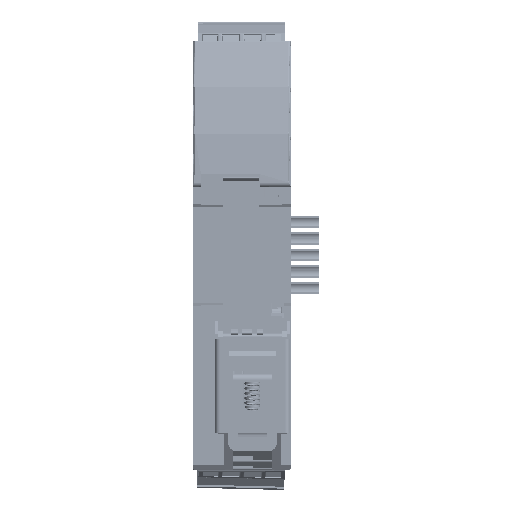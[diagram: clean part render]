
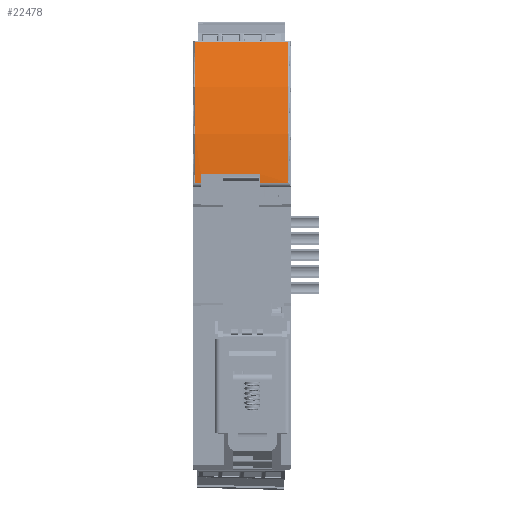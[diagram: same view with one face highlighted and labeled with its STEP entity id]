
A CAD part, front view. The second image highlights one B-rep face of the part: STEP entity #22478.
In plain terms, the highlighted cylindrical face has radius 80 mm (diameter 160 mm), a partial arc.
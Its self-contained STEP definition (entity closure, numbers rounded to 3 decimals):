
#22478=ADVANCED_FACE('',(#68575),#68577,.T.);
#68575=FACE_BOUND('',#68576,.T.);
#68576=EDGE_LOOP('',(#126964,#126965,#126966,#126967,#126968,#126969,#126970,#126971));
#68577=CYLINDRICAL_SURFACE('',#68578,80.);
#68578=AXIS2_PLACEMENT_3D('',#68579,#68580,#68581);
#68579=CARTESIAN_POINT('',(-0.85,75.75,13.5));
#68580=DIRECTION('',(1.,0.,0.));
#68581=DIRECTION('',(0.,0.,-1.));
#126964=ORIENTED_EDGE('',*,*,#159094,.F.);
#126965=ORIENTED_EDGE('',*,*,#159101,.T.);
#126966=ORIENTED_EDGE('',*,*,#159102,.F.);
#126967=ORIENTED_EDGE('',*,*,#158698,.F.);
#126968=ORIENTED_EDGE('',*,*,#158695,.T.);
#126969=ORIENTED_EDGE('',*,*,#159103,.T.);
#126970=ORIENTED_EDGE('',*,*,#158291,.T.);
#126971=ORIENTED_EDGE('',*,*,#158289,.T.);
#158289=EDGE_CURVE('',#184129,#184127,#184130,.T.);
#158291=EDGE_CURVE('',#184132,#184129,#184133,.T.);
#158695=EDGE_CURVE('',#184843,#184844,#184845,.T.);
#158698=EDGE_CURVE('',#184843,#184848,#184849,.T.);
#159094=EDGE_CURVE('',#185569,#184127,#185571,.T.);
#159101=EDGE_CURVE('',#185569,#185583,#185584,.T.);
#159102=EDGE_CURVE('',#184848,#185583,#185585,.T.);
#159103=EDGE_CURVE('',#184844,#184132,#185586,.T.);
#184127=VERTEX_POINT('',#229985);
#184129=VERTEX_POINT('',#229990);
#184130=LINE('',#229991,#229992);
#184132=VERTEX_POINT('',#230063);
#184133=CIRCLE('',#230064,80.);
#184843=VERTEX_POINT('',#231982);
#184844=VERTEX_POINT('',#231983);
#184845=CIRCLE('',#231984,80.);
#184848=VERTEX_POINT('',#232074);
#184849=LINE('',#232075,#232076);
#185569=VERTEX_POINT('',#233677);
#185571=CIRCLE('',#233681,80.);
#185583=VERTEX_POINT('',#233708);
#185584=LINE('',#233709,#233710);
#185585=CIRCLE('',#233712,80.);
#185586=LINE('',#233716,#233717);
#229985=CARTESIAN_POINT('',(-9.45,-4.184,16.741));
#229990=CARTESIAN_POINT('',(-10.85,-4.184,16.741));
#229991=CARTESIAN_POINT('',(-10.85,-4.184,16.741));
#229992=VECTOR('',#229993,1.);
#229993=DIRECTION('',(1.,0.,0.));
#230063=CARTESIAN_POINT('',(-10.85,4.169,49.223));
#230064=AXIS2_PLACEMENT_3D('',#230065,#230066,#230067);
#230065=CARTESIAN_POINT('',(-10.85,75.75,13.5));
#230066=DIRECTION('',(1.,0.,0.));
#230067=DIRECTION('',(0.,-0.895,0.447));
#231982=CARTESIAN_POINT('',(10.75,-4.184,16.741));
#231983=CARTESIAN_POINT('',(10.75,4.169,49.223));
#231984=AXIS2_PLACEMENT_3D('',#231985,#231986,#231987);
#231985=CARTESIAN_POINT('',(10.75,75.75,13.5));
#231986=DIRECTION('',(-1.,0.,0.));
#231987=DIRECTION('',(0.,-0.999,0.041));
#232074=CARTESIAN_POINT('',(4.15,-4.184,16.741));
#232075=CARTESIAN_POINT('',(10.75,-4.184,16.741));
#232076=VECTOR('',#232077,1.);
#232077=DIRECTION('',(-1.,0.,0.));
#233677=CARTESIAN_POINT('',(-9.45,-4.081,18.7));
#233681=AXIS2_PLACEMENT_3D('',#233682,#233683,#233684);
#233682=CARTESIAN_POINT('',(-9.45,75.75,13.5));
#233683=DIRECTION('',(1.,0.,0.));
#233684=DIRECTION('',(0.,-0.998,0.065));
#233708=CARTESIAN_POINT('',(4.15,-4.081,18.7));
#233709=CARTESIAN_POINT('',(-9.45,-4.081,18.7));
#233710=VECTOR('',#233711,1.);
#233711=DIRECTION('',(1.,0.,0.));
#233712=AXIS2_PLACEMENT_3D('',#233713,#233714,#233715);
#233713=CARTESIAN_POINT('',(4.15,75.75,13.5));
#233714=DIRECTION('',(-1.,0.,0.));
#233715=DIRECTION('',(0.,-0.999,0.041));
#233716=CARTESIAN_POINT('',(10.75,4.169,49.223));
#233717=VECTOR('',#233718,1.);
#233718=DIRECTION('',(-1.,0.,0.));
